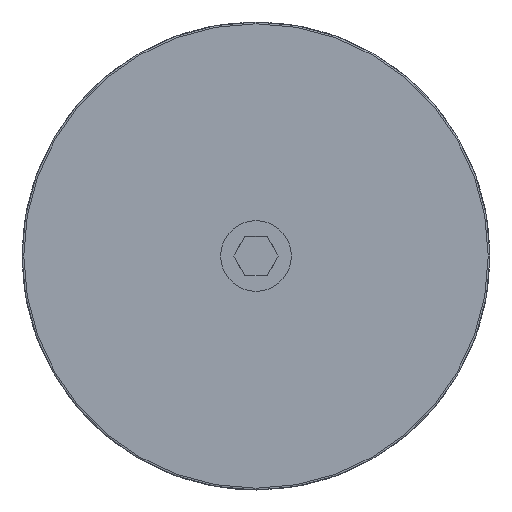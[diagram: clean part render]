
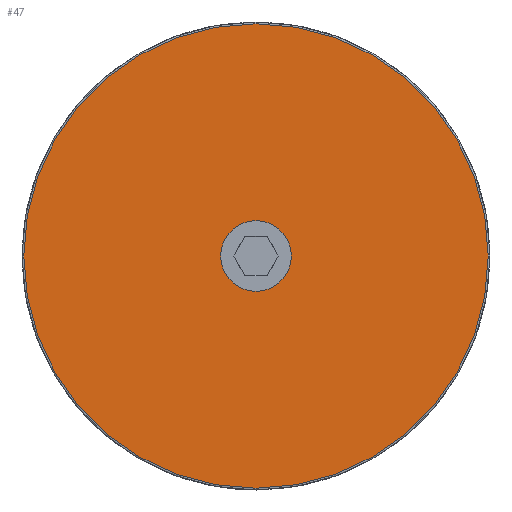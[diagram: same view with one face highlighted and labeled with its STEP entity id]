
A CAD part, left-side view. The second image highlights one B-rep face of the part: STEP entity #47.
In plain terms, the highlighted planar face has unit normal (-1, 0, 0).
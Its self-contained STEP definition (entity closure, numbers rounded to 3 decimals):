
#2=CARTESIAN_POINT('',(-525.136,-330.309,157.8));
#3=DIRECTION('',(1.0,0.0,0.0));
#4=DIRECTION('',(0.0,-1.0,0.0));
#5=AXIS2_PLACEMENT_3D('',#2,#3,#4);
#6=PLANE('',#5);
#7=CARTESIAN_POINT('',(-525.136,-488.109,-78.9));
#8=VERTEX_POINT('',#7);
#9=CARTESIAN_POINT('',(-525.136,-488.109,78.9));
#10=VERTEX_POINT('',#9);
#11=CARTESIAN_POINT('',(-525.136,-488.109,0.));
#12=DIRECTION('',(-1.0,0.0,0.0));
#13=DIRECTION('',(0.0,0.0,-1.0));
#14=AXIS2_PLACEMENT_3D('',#11,#12,#13);
#15=CIRCLE('',#14,78.9);
#16=EDGE_CURVE('',#8,#10,#15,.T.);
#17=ORIENTED_EDGE('',*,*,#16,.T.);
#18=CARTESIAN_POINT('',(-525.136,-488.109,0.));
#19=DIRECTION('',(-1.0,0.0,0.0));
#20=DIRECTION('',(0.0,0.0,-1.0));
#21=AXIS2_PLACEMENT_3D('',#18,#19,#20);
#22=CIRCLE('',#21,78.9);
#23=EDGE_CURVE('',#10,#8,#22,.T.);
#24=ORIENTED_EDGE('',*,*,#23,.T.);
#25=EDGE_LOOP('',(#17,#24));
#26=FACE_OUTER_BOUND('',#25,.T.);
#27=CARTESIAN_POINT('',(-525.136,-488.109,12.));
#28=VERTEX_POINT('',#27);
#29=CARTESIAN_POINT('',(-525.136,-488.109,-12.));
#30=VERTEX_POINT('',#29);
#31=CARTESIAN_POINT('',(-525.136,-488.109,0.0));
#32=DIRECTION('',(-1.0,0.0,0.0));
#33=DIRECTION('',(0.0,0.0,-1.0));
#34=AXIS2_PLACEMENT_3D('',#31,#32,#33);
#35=CIRCLE('',#34,12.);
#36=EDGE_CURVE('',#28,#30,#35,.T.);
#37=ORIENTED_EDGE('',*,*,#36,.F.);
#38=CARTESIAN_POINT('',(-525.136,-488.109,0.0));
#39=DIRECTION('',(-1.0,0.0,0.0));
#40=DIRECTION('',(0.0,0.0,-1.0));
#41=AXIS2_PLACEMENT_3D('',#38,#39,#40);
#42=CIRCLE('',#41,12.);
#43=EDGE_CURVE('',#30,#28,#42,.T.);
#44=ORIENTED_EDGE('',*,*,#43,.F.);
#45=EDGE_LOOP('',(#37,#44));
#46=FACE_BOUND('',#45,.T.);
#47=ADVANCED_FACE('',(#26,#46),#6,.F.);
